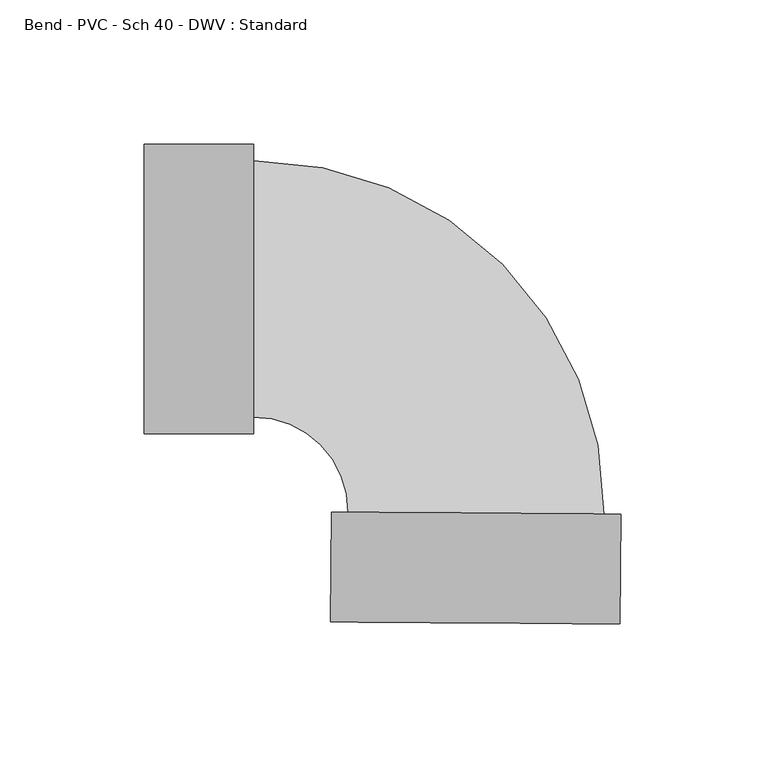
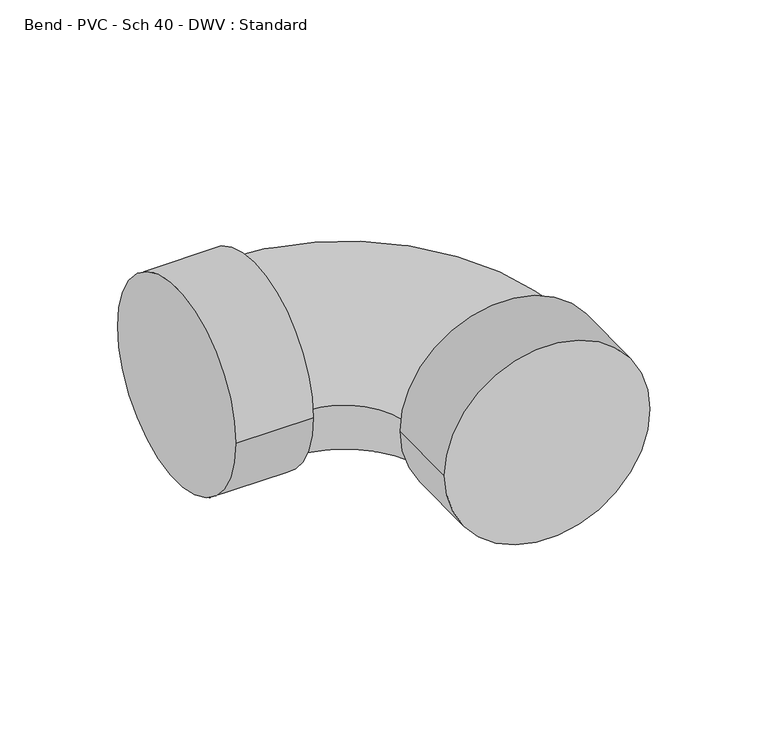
"""IFC4 building model written with IfcOpenShell, lengths in millimetres: pipe fitting geometry, Bend - PVC - Sch 40 - DWV : Standard."""

from ifc_helpers import new_model, si_unit, point, frame, origin, place, context, project, spatial, circle_curve, ellipse_curve, trimmed, source, transform, mapped, element, save
from ifc_brep_helpers import plane_surface, cylinder_surface, revolved_surface, advanced_brep


def bend_pvc_sch_40_dwv_standard_7417f2e3(model_context):
    return source(origin(), model_context, "Body", "AdvancedBrep", [
        advanced_brep(
        [(-115.9002, 50.2666, 0.0), (-115.9002, -50.2666, 0.0), (-77.8002, 50.2666, 0.0), (-77.8002, -50.2666, 0.0), (-77.8002, 44.45, 0.0), (-77.8002, -44.45, 0.0), (-45.0102782, -77.4774062, 0.0), (43.887407, -78.1189422, 0.0), (49.7038556, -78.160917, 0.0), (-50.8267267, -77.4354315, 0.0), (49.4289116, -116.2599249, 0.0), (-51.1016707, -115.5344394, 0.0)],
        [
            (0, 1, circle_curve(frame((-115.9002, 0.0, 0.0), z_axis=(-1.0, 0.0, 0.0), x_axis=(0.0, -1.0, 0.0)), 50.2666)),
            (1, 0, circle_curve(frame((-115.9002, 0.0, 0.0), z_axis=(-1.0, 0.0, 0.0), x_axis=(0.0, -1.0, 0.0)), 50.2666)),
            (2, 3, circle_curve(frame((-77.8002, 0.0, 0.0), z_axis=(1.0, 0.0, 0.0), x_axis=(0.0, -1.0, 0.0)), 50.2666)),
            (3, 2, circle_curve(frame((-77.8002, 0.0, 0.0), z_axis=(1.0, 0.0, 0.0), x_axis=(0.0, -1.0, 0.0)), 50.2666)),
            (4, 5, circle_curve(frame((-77.8002, 0.0, 0.0), z_axis=(-1.0, 0.0, 0.0), x_axis=(0.0, -1.0, 0.0)), 44.45)),
            (5, 4, circle_curve(frame((-77.8002, 0.0, 0.0), z_axis=(-1.0, 0.0, 0.0), x_axis=(0.0, -1.0, 0.0)), 44.45)),
            (1, 3),
            (2, 0),
            (6, 7, circle_curve(frame((-0.5614356, -77.7981742, 0.0), z_axis=(0.00721637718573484, 0.9999739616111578, 0.0), x_axis=(-0.9999739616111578, 0.00721637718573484, 0.0)), 44.45)),
            (7, 4, circle_curve(frame((-77.8002, -77.2407756, 0.0), z_axis=(0.0, 0.0, 1.0), x_axis=(0.0, 1.0, 0.0)), 121.6907756)),
            (5, 6, circle_curve(frame((-77.8002, -77.2407756, 0.0), z_axis=(0.0, 0.0, -1.0), x_axis=(0.0, 1.0, 0.0)), 32.7907756)),
            (7, 6, circle_curve(frame((-0.5614356, -77.7981742, 0.0), z_axis=(0.00721637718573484, 0.9999739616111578, 0.0), x_axis=(-0.9999739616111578, 0.00721637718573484, 0.0)), 44.45)),
            (8, 9, circle_curve(frame((-0.5614356, -77.7981742, 0.0), z_axis=(0.007216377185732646, 0.9999739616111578, 0.0), x_axis=(-0.9999739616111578, 0.007216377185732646, 0.0)), 50.2666)),
            (9, 8, circle_curve(frame((-0.5614356, -77.7981742, 0.0), z_axis=(0.007216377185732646, 0.9999739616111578, 0.0), x_axis=(-0.9999739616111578, 0.007216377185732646, 0.0)), 50.2666)),
            (10, 11, circle_curve(frame((-0.8363796, -115.8971821, 0.0), z_axis=(-0.007216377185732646, -0.9999739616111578, 0.0), x_axis=(-0.9999739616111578, 0.007216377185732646, 0.0)), 50.2666)),
            (11, 10, circle_curve(frame((-0.8363796, -115.8971821, 0.0), z_axis=(-0.007216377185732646, -0.9999739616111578, 0.0), x_axis=(-0.9999739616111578, 0.007216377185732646, 0.0)), 50.2666)),
            (9, 11),
            (10, 8),
        ],
        [
            plane_surface(frame((-115.9002, 0.0, 0.0), z_axis=(-1.0, 0.0, 0.0), x_axis=(0.0, 0.0, 1.0))),
            plane_surface(frame((-77.8002, 0.0, 0.0), z_axis=(1.0, 0.0, 0.0), x_axis=(0.0, 0.0, 1.0))),
            cylinder_surface(frame((-115.9002, 0.0, 0.0), z_axis=(-1.0, 0.0, 0.0), x_axis=(0.0, -1.0, 0.0)), 50.2666),
            revolved_surface(trimmed(ellipse_curve(frame((-77.8002, 0.0, 0.0), z_axis=(1.0, 0.0, 0.0), x_axis=(0.0, -1.0, 0.0)), 44.45, 44.45), [point((-77.8002, 44.45, 0.0))], [point((-77.8002, -44.45, 0.0))], True, "CARTESIAN"), (-77.8002, -77.2407756, 0.0), (0.0, 0.0, 1.0)),
            revolved_surface(trimmed(ellipse_curve(frame((-77.8002, 0.0, 0.0), z_axis=(1.0, 0.0, 0.0), x_axis=(0.0, -1.0, 0.0)), 44.45, 44.45), [point((-77.8002, -44.45, 0.0))], [point((-77.8002, 44.45, 0.0))], True, "CARTESIAN"), (-77.8002, -77.2407756, 0.0), (0.0, 0.0, 1.0)),
            plane_surface(frame((-0.5614356, -77.7981742, 0.0), z_axis=(0.007216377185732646, 0.9999739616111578, 0.0), x_axis=(0.0, 0.0, 1.0))),
            plane_surface(frame((-0.8363796, -115.8971821, 0.0), z_axis=(-0.007216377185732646, -0.9999739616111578, 0.0), x_axis=(0.0, 0.0, 1.0))),
            cylinder_surface(frame((-0.5614356, -77.7981742, 0.0), z_axis=(0.007216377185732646, 0.9999739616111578, 0.0), x_axis=(-0.9999739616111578, 0.007216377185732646, 0.0)), 50.2666),
        ],
        [
            (0, [[1, 2]]),
            (1, [[3, 4], [5, 6]]),
            (2, [[7, -3, 8, -2]]),
            (2, [[-8, -4, -7, -1]]),
            (3, [[9, 10, -6, 11]]),
            (4, [[-5, -10, 12, -11]]),
            (5, [[13, 14], [-12, -9]]),
            (6, [[15, 16]]),
            (7, [[17, -15, 18, -14]]),
            (7, [[-18, -16, -17, -13]]),
        ],
    ),
    ])


if __name__ == "__main__":
    model = new_model("IFC4")
    model_context = context("Model", 3, world=origin())
    ifc_project = project(units=[si_unit("LENGTHUNIT", "METRE", prefix="MILLI")], contexts=[model_context])
    site = spatial("IfcSite", under=ifc_project)
    building = spatial("IfcBuilding", under=site)
    placement = place(None, origin())
    bend_pvc_sch_40_dwv_standard_shape = bend_pvc_sch_40_dwv_standard_7417f2e3(model_context)
    element("IfcPipeFitting", 1, ObjectType="Bend - PVC - Sch 40 - DWV : Standard", at=placement, inside=building, context=model_context, shape_type="MappedRepresentation", body=[
        mapped(bend_pvc_sch_40_dwv_standard_shape, transform((0.0, 0.0, 0.0), x_axis=(1.0, 0.0, 0.0), y_axis=(0.0, 1.0, 0.0), z_axis=(0.0, 0.0, 1.0))),
    ])
    save(model, "model.ifc")
